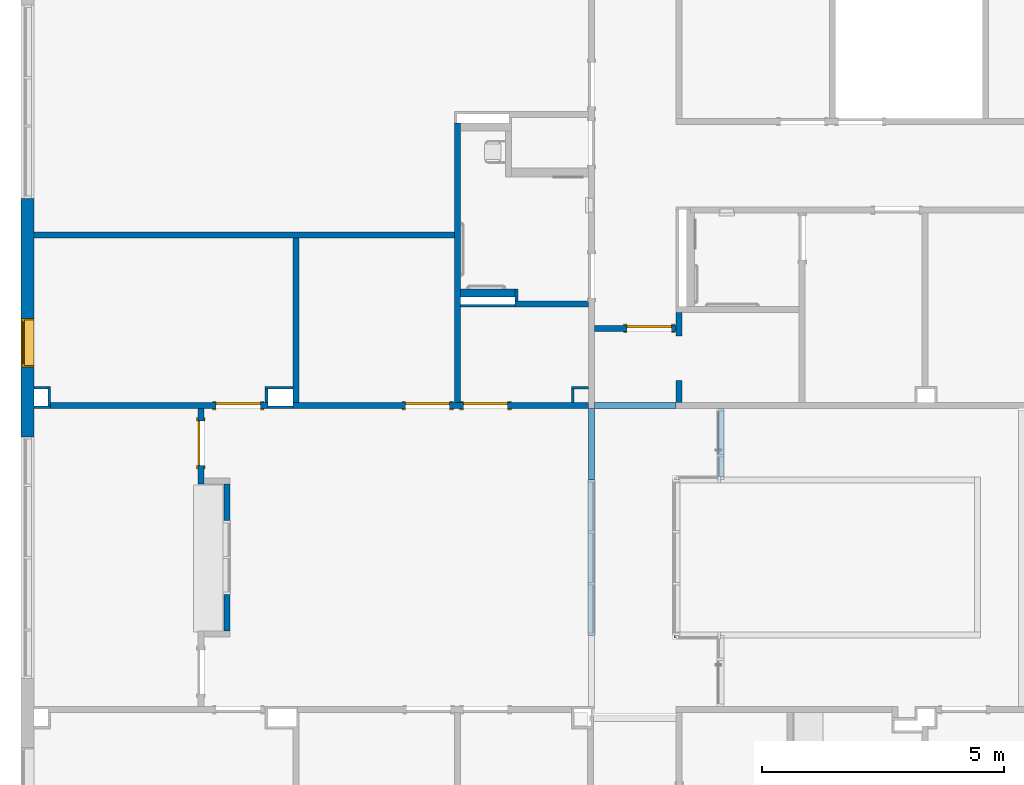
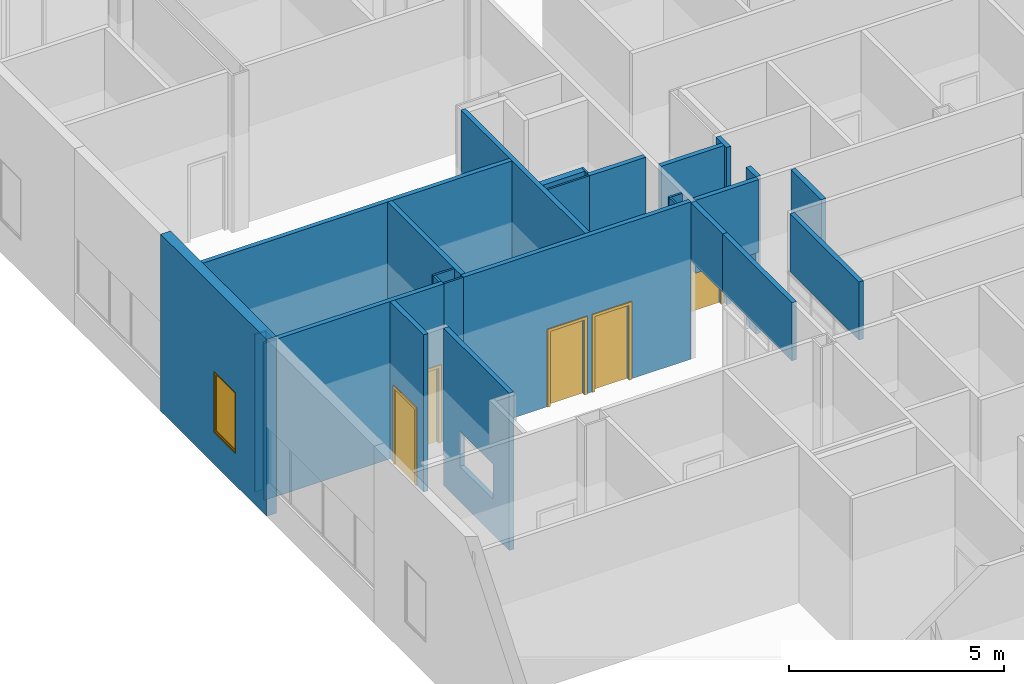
# One storey, part 27 of 87: 28 walls, 5 doors, 1 window, 7 openings.
"""IFC2X3 building model written with IfcOpenShell, lengths in metres."""

from ifc_helpers import new_model, entity, si_unit, converted_unit, frame, frame_2d, origin, origin_2d_with_axis, place, context, project, spatial, polyline, rectangle, outline, extrude, source, transform, mapped, material, layer, layer_set, layer_usage, type_object, type_shapes, element, fill, save


model = new_model("IFC2X3")

# Units and contexts
model_context = context("Model", 3, precision=1e-09, world=origin())
plan_context = context("Plan", 3, precision=1e-09, world=origin())
ifc_project = project(units=[si_unit("LENGTHUNIT", "METRE"), si_unit("AREAUNIT", "SQUARE_METRE"), si_unit("VOLUMEUNIT", "CUBIC_METRE"), converted_unit("PLANEANGLEUNIT", "DEGREE", entity("IfcRatioMeasure", 0.01745329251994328), si_unit("PLANEANGLEUNIT", "RADIAN"), dimensions=[0, 0, 0, 0, 0, 0, 0]), si_unit("TIMEUNIT", "SECOND")], contexts=[model_context, plan_context])

# Site, building, storey
site_placement = place(None, origin())
site = spatial("IfcSite", under=ifc_project, at=site_placement, Name="Default", CompositionType="ELEMENT")
building_placement = place(site_placement, origin())
building = spatial("IfcBuilding", under=site, at=building_placement, CompositionType="ELEMENT")
storey_placement = place(building_placement, origin())
storey = spatial("IfcBuildingStorey", under=building, at=storey_placement, Name="First Floor", CompositionType="ELEMENT", Elevation=-3.531500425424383e-13)

# Wall, openings, doors
ifc_material_1 = material(Name="Plasterboard")
ifc_layer_1 = layer(ifc_material_1, 0.016)
ifc_material_2 = material(Name="Metal - Stud Layer")
ifc_layer_2 = layer(ifc_material_2, 0.092)
ifc_layer_3 = layer(ifc_material_1, 0.016)
ifc_layer_set_1 = layer_set([ifc_layer_1, ifc_layer_2, ifc_layer_3], Name="Basic Wall:Interior - Partition (92mm Stud)")
ifc_layer_usage_1 = layer_usage(ifc_layer_set_1, "AXIS2", "NEGATIVE", 0.062)
wall_1_placement = place(storey_placement, frame((-40.53700000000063, 34.84199999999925, 0.0), z_axis=(0.0, 0.0, 1.0), x_axis=(-1.0, 0.0, 0.0)))
wall_1 = element("IfcWallStandardCase", 1, at=wall_1_placement, inside=storey, material=ifc_layer_usage_1, Name="Basic Wall:Interior - Partition (92mm Stud)", ObjectType="Basic Wall:Interior - Partition (92mm Stud)", context=model_context, shape_type="SweptSolid", body=[
    extrude(rectangle(XDim=6.116999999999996, YDim=0.1239999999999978, at=frame_2d((3.058499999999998, 0.0), x_axis=(-1.0, 0.0))), origin(), (0.0, 0.0, 1.0), 4.468000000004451),
])
opening_1_placement = place(wall_1_placement, frame((2.589, 0.06199999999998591, 0.0)))
opening_1 = element("IfcOpeningElement", 2, at=opening_1_placement, cuts=wall_1, Name="M_Single-Flush:0915 x 2134mm:0915 x 2134mm:1", ObjectType="Opening", context=model_context, shape_type="SweptSolid", body=[
    extrude(rectangle(XDim=0.9149999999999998, YDim=2.134, at=frame_2d((1.067, 0.4574999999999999), x_axis=(0.0, -1.0))), frame((0.0, 0.0, 0.0), z_axis=(0.0, -1.0, 0.0), x_axis=(0.0, 0.0, 1.0)), (0.0, 0.0, 1.0), 0.124),
])
opening_2_placement = place(wall_1_placement, frame((3.787999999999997, 0.06199999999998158, 0.0)))
opening_2 = element("IfcOpeningElement", 3, at=opening_2_placement, cuts=wall_1, Name="M_Single-Flush:0915 x 2134mm:0915 x 2134mm:1", ObjectType="Opening", context=model_context, shape_type="SweptSolid", body=[
    extrude(rectangle(XDim=0.9149999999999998, YDim=2.134, at=frame_2d((1.067, 0.4575), x_axis=(0.0, 1.0))), frame((0.0, 0.0, 0.0), z_axis=(0.0, -1.0, 0.0), x_axis=(0.0, 0.0, 1.0)), (0.0, 0.0, 1.0), 0.124),
])
door_style_1 = type_object("IfcDoorStyle", Name="0915 x 2134mm", ConstructionType="NOTDEFINED", OperationType="SINGLE_SWING_RIGHT", ParameterTakesPrecedence=False, Sizeable=False)
shared_shape_1 = source(origin(), model_context, "Body", "SweptSolid", [
    extrude(outline(polyline([(-0.5335, -1.123999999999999), (0.5334999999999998, -1.123999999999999), (0.5334999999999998, 1.086), (0.4574999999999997, 1.086), (0.4574999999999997, -1.048000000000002), (-0.4574999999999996, -1.048000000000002), (-0.4574999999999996, 1.086), (-0.5335, 1.086), (-0.5335, -1.123999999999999)])), frame((0.4575000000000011, 0.1239999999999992, 1.086), z_axis=(0.0, 1.0, 0.0), x_axis=(1.0, 0.0, 0.0)), (0.0, 0.0, 1.0), 0.02499999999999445),
    extrude(outline(polyline([(-1.123999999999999, -0.5334999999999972), (1.085999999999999, -0.5334999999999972), (1.085999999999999, -0.4575000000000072), (-1.048, -0.4575000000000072), (-1.048, 0.4575000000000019), (1.085999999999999, 0.4575000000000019), (1.085999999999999, 0.5335000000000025), (-1.123999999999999, 0.5335000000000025), (-1.123999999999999, -0.5334999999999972)])), frame((0.4575000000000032, -0.02500000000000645, 1.085999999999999), z_axis=(0.0, 1.0, 0.0), x_axis=(0.0, 0.0, -1.0)), (0.0, 0.0, 1.0), 0.02500000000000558),
    extrude(rectangle(XDim=0.051, YDim=0.9149999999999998, at=origin_2d_with_axis()), frame((0.4575000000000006, 0.09849999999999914, 0.0), z_axis=(0.0, 0.0, 1.0), x_axis=(0.0, 1.0, 0.0)), (0.0, 0.0, 1.0), 2.133999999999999),
])
type_shapes(door_style_1, [shared_shape_1])
door_1_placement = place(opening_2_placement, frame((0.0, 0.0, 0.0), z_axis=(0.0, 0.0, 1.0), x_axis=(-1.0, 0.0, 0.0)))
door_1 = element("IfcDoor", 4, at=door_1_placement, inside=storey, type_object=door_style_1, Name="M_Single-Flush:0915 x 2134mm:0915 x 2134mm", ObjectType="0915 x 2134mm", OverallHeight=2.134, OverallWidth=0.9149999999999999, context=model_context, shape_type="MappedRepresentation", body=[
    mapped(shared_shape_1, transform((0.0, 0.0, 0.0), scale=1.0)),
])
fill(opening_2, door_1)
door_style_2 = type_object("IfcDoorStyle", Name="0915 x 2134mm", ConstructionType="NOTDEFINED", OperationType="SINGLE_SWING_LEFT", ParameterTakesPrecedence=False, Sizeable=False)
shared_shape_2 = source(origin(), model_context, "Body", "SweptSolid", [
    extrude(outline(polyline([(-0.5335, -1.123999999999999), (0.5334999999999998, -1.123999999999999), (0.5334999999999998, 1.086), (0.4574999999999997, 1.086), (0.4574999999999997, -1.048000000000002), (-0.4574999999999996, -1.048000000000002), (-0.4574999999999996, 1.086), (-0.5335, 1.086), (-0.5335, -1.123999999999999)])), frame((0.4575000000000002, 0.1489999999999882, 1.086), z_axis=(0.0, -1.0, 0.0), x_axis=(-1.0, 0.0, 0.0)), (0.0, 0.0, 1.0), 0.02499999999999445),
    extrude(outline(polyline([(-1.123999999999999, -0.5334999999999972), (1.085999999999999, -0.5334999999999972), (1.085999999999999, -0.4575000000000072), (-1.048, -0.4575000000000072), (-1.048, 0.4575000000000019), (1.085999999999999, 0.4575000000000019), (1.085999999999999, 0.5335000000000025), (-1.123999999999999, 0.5335000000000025), (-1.123999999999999, -0.5334999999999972)])), frame((0.4574999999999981, 0.0, 1.085999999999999), z_axis=(0.0, -1.0, 0.0), x_axis=(0.0, 0.0, -1.0)), (0.0, 0.0, 1.0), 0.02500000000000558),
    extrude(rectangle(XDim=0.9149999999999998, YDim=0.051, at=origin_2d_with_axis()), frame((0.4575000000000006, 0.09849999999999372, 0.0)), (0.0, 0.0, 1.0), 2.133999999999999),
])
type_shapes(door_style_2, [shared_shape_2])
door_2_placement = place(opening_1_placement, frame((0.0, 0.0, 0.0), z_axis=(0.0, 0.0, 1.0), x_axis=(-1.0, 0.0, 0.0)))
door_2 = element("IfcDoor", 5, at=door_2_placement, inside=storey, type_object=door_style_2, Name="M_Single-Flush:0915 x 2134mm:0915 x 2134mm", ObjectType="0915 x 2134mm", OverallHeight=2.134, OverallWidth=0.9149999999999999, context=model_context, shape_type="MappedRepresentation", body=[
    mapped(shared_shape_2, transform((0.0, 0.0, 0.0), scale=1.0)),
])
fill(opening_1, door_2)

# Walls
ifc_layer_usage_2 = layer_usage(ifc_layer_set_1, "AXIS2", "NEGATIVE", 0.062)
wall_2_placement = place(storey_placement, frame((-38.65800000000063, 34.90354814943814, 0.0), z_axis=(0.0, 0.0, 1.0), x_axis=(0.0, 1.0, 0.0)))
element("IfcWallStandardCase", 6, at=wall_2_placement, inside=storey, material=ifc_layer_usage_2, Name="Basic Wall:Interior - Partition (92mm Stud)", ObjectType="Basic Wall:Interior - Partition (92mm Stud)", context=model_context, shape_type="SweptSolid", body=[
    extrude(rectangle(XDim=0.4589518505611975, YDim=0.1239999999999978, at=frame_2d((0.2294759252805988, 0.0), x_axis=(-1.0, 0.0))), origin(), (0.0, 0.0, 1.0), 4.46800000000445),
])
ifc_layer_usage_3 = layer_usage(ifc_layer_set_1, "AXIS2", "NEGATIVE", 0.062)
wall_3_placement = place(storey_placement, frame((-38.65800000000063, 36.27749999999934, 0.0), z_axis=(0.0, 0.0, 1.0), x_axis=(0.0, 1.0, 0.0)))
element("IfcWallStandardCase", 7, at=wall_3_placement, inside=storey, material=ifc_layer_usage_3, Name="Basic Wall:Interior - Partition (92mm Stud)", ObjectType="Basic Wall:Interior - Partition (92mm Stud)", context=model_context, shape_type="SweptSolid", body=[
    extrude(rectangle(XDim=0.492500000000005, YDim=0.1239999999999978, at=frame_2d((0.2462500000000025, 0.0), x_axis=(-1.0, 0.0))), origin(), (0.0, 0.0, 1.0), 4.468000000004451),
])

# Wall, opening, door
ifc_layer_usage_4 = layer_usage(ifc_layer_set_1, "AXIS2", "NEGATIVE", 0.062)
wall_4_placement = place(storey_placement, frame((-38.72000000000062, 36.43949999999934, 0.0), z_axis=(0.0, 0.0, 1.0), x_axis=(-1.0, 0.0, 0.0)))
wall_4 = element("IfcWallStandardCase", 8, at=wall_4_placement, inside=storey, material=ifc_layer_usage_4, Name="Basic Wall:Interior - Partition (92mm Stud)", ObjectType="Basic Wall:Interior - Partition (92mm Stud)", context=model_context, shape_type="SweptSolid", body=[
    extrude(rectangle(XDim=1.693000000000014, YDim=0.1239999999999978, at=frame_2d((0.8465000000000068, 0.0), x_axis=(-1.0, 0.0))), origin(), (0.0, 0.0, 1.0), 4.46800000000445),
])
opening_3_placement = place(wall_4_placement, frame((1.015000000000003, 0.06199999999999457, 0.0)))
opening_3 = element("IfcOpeningElement", 9, at=opening_3_placement, cuts=wall_4, Name="M_Single-Flush:0915 x 2134mm:0915 x 2134mm:1", ObjectType="Opening", context=model_context, shape_type="SweptSolid", body=[
    extrude(rectangle(XDim=0.9149999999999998, YDim=2.134, at=frame_2d((1.067, 0.4575), x_axis=(0.0, 1.0))), frame((0.0, 0.0, 0.0), z_axis=(0.0, -1.0, 0.0), x_axis=(0.0, 0.0, 1.0)), (0.0, 0.0, 1.0), 0.124),
])
door_3_placement = place(opening_3_placement, frame((0.0, 0.0, 0.0), z_axis=(0.0, 0.0, 1.0), x_axis=(-1.0, 0.0, 0.0)))
door_3 = element("IfcDoor", 10, at=door_3_placement, inside=storey, type_object=door_style_1, Name="M_Single-Flush:0915 x 2134mm:0915 x 2134mm", ObjectType="0915 x 2134mm", OverallHeight=2.134, OverallWidth=0.9149999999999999, context=model_context, shape_type="MappedRepresentation", body=[
    mapped(shared_shape_1, transform((0.0, 0.0, 0.0), scale=1.0)),
])
fill(opening_3, door_3)

# Walls
ifc_layer_usage_5 = layer_usage(ifc_layer_set_1, "AXIS2", "NEGATIVE", 0.062)
wall_5_placement = place(storey_placement, frame((-40.53700000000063, 36.94199999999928, 0.0), z_axis=(0.0, 0.0, 1.0), x_axis=(-1.0, 0.0, 0.0)))
element("IfcWallStandardCase", 11, at=wall_5_placement, inside=storey, material=ifc_layer_usage_5, Name="Basic Wall:Interior - Partition (92mm Stud)", ObjectType="Basic Wall:Interior - Partition (92mm Stud)", context=model_context, shape_type="SweptSolid", body=[
    extrude(rectangle(XDim=1.516999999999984, YDim=0.1239999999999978, at=frame_2d((0.7584999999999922, 0.0), x_axis=(-1.0, 0.0))), origin(), (0.0, 0.0, 1.0), 4.46800000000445),
])
ifc_layer_4 = layer(ifc_material_2, 0.038)
ifc_layer_5 = layer(ifc_material_1, 0.016)
ifc_layer_set_2 = layer_set([ifc_layer_4, ifc_layer_5], Name="Basic Wall:Interior - Furring (38 mm Stud)")
ifc_layer_usage_6 = layer_usage(ifc_layer_set_2, "AXIS2", "POSITIVE", -0.027)
wall_6_placement = place(storey_placement, frame((-42.02700000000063, 37.25999999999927, 0.0), z_axis=(0.0, 0.0, 1.0), x_axis=(0.0, -1.0, 0.0)))
element("IfcWallStandardCase", 12, at=wall_6_placement, inside=storey, material=ifc_layer_usage_6, Name="Basic Wall:Interior - Furring (38 mm Stud)", ObjectType="Basic Wall:Interior - Furring (38 mm Stud)", context=model_context, shape_type="SweptSolid", body=[
    extrude(rectangle(XDim=0.2559999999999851, YDim=0.05400000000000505, at=frame_2d((0.1279999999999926, 0.0), x_axis=(-1.0, 0.0))), origin(), (0.0, 0.0, 1.0), 4.468000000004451),
])
ifc_layer_6 = layer(ifc_material_2, 0.152)
ifc_layer_7 = layer(ifc_material_1, 0.016)
ifc_layer_set_3 = layer_set([ifc_layer_6, ifc_layer_7], Name="Basic Wall:Interior - Furring (152 mm Stud)")
ifc_layer_usage_7 = layer_usage(ifc_layer_set_3, "AXIS2", "POSITIVE", -0.08399999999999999)
wall_7_placement = place(storey_placement, frame((-43.18600000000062, 37.17599999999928, 0.0)))
element("IfcWallStandardCase", 13, at=wall_7_placement, inside=storey, material=ifc_layer_usage_7, Name="Basic Wall:Interior - Furring (152 mm Stud)", ObjectType="Basic Wall:Interior - Furring (152 mm Stud)", context=model_context, shape_type="SweptSolid", body=[
    extrude(rectangle(XDim=1.132000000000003, YDim=0.1679999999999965, at=frame_2d((0.5660000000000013, 0.0), x_axis=(-1.0, 0.0))), origin(), (0.0, 0.0, 1.0), 4.46800000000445),
])
ifc_layer_usage_8 = layer_usage(ifc_layer_set_1, "AXIS2", "NEGATIVE", 0.062)
wall_8_placement = place(storey_placement, frame((-43.24800000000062, 34.90399999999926, 0.0), z_axis=(0.0, 0.0, 1.0), x_axis=(0.0, 1.0, 0.0)))
element("IfcWallStandardCase", 14, at=wall_8_placement, inside=storey, material=ifc_layer_usage_8, Name="Basic Wall:Interior - Partition (92mm Stud)", ObjectType="Basic Wall:Interior - Partition (92mm Stud)", context=model_context, shape_type="SweptSolid", body=[
    extrude(rectangle(XDim=5.787399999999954, YDim=0.1240000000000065, at=frame_2d((2.893699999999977, 0.0), x_axis=(-1.0, 0.0))), origin(), (0.0, 0.0, 1.0), 4.468000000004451),
])
ifc_layer_usage_9 = layer_usage(ifc_layer_set_1, "AXIS2", "NEGATIVE", 0.062)
wall_9_placement = place(storey_placement, frame((-52.01300000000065, 38.36799999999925, 0.0)))
element("IfcWallStandardCase", 15, at=wall_9_placement, inside=storey, material=ifc_layer_usage_9, Name="Basic Wall:Interior - Partition (92mm Stud)", ObjectType="Basic Wall:Interior - Partition (92mm Stud)", context=model_context, shape_type="SweptSolid", body=[
    extrude(rectangle(XDim=8.70300000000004, YDim=0.1239999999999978, at=frame_2d((4.35150000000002, 0.0), x_axis=(-1.0, 0.0))), origin(), (0.0, 0.0, 1.0), 4.468000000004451),
])
ifc_layer_usage_10 = layer_usage(ifc_layer_set_1, "AXIS2", "NEGATIVE", 0.062)
wall_10_placement = place(storey_placement, frame((-46.59200000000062, 38.30599999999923, 0.0), z_axis=(0.0, 0.0, 1.0), x_axis=(0.0, -1.0, 0.0)))
element("IfcWallStandardCase", 16, at=wall_10_placement, inside=storey, material=ifc_layer_usage_10, Name="Basic Wall:Interior - Partition (92mm Stud)", ObjectType="Basic Wall:Interior - Partition (92mm Stud)", context=model_context, shape_type="SweptSolid", body=[
    extrude(rectangle(XDim=3.401999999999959, YDim=0.1240000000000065, at=frame_2d((1.700999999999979, 0.0), x_axis=(-1.0, 0.0))), origin(), (0.0, 0.0, 1.0), 4.46800000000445),
])

# Wall, opening, door
ifc_layer_usage_11 = layer_usage(ifc_layer_set_1, "AXIS2", "NEGATIVE", 0.062)
wall_11_placement = place(storey_placement, frame((-48.56300000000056, 33.21999999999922, 0.0), z_axis=(0.0, 0.0, 1.0), x_axis=(0.0, 1.0, 0.0)))
wall_11 = element("IfcWallStandardCase", 17, at=wall_11_placement, inside=storey, material=ifc_layer_usage_11, Name="Basic Wall:Interior - Partition (92mm Stud)", ObjectType="Basic Wall:Interior - Partition (92mm Stud)", context=model_context, shape_type="SweptSolid", body=[
    extrude(rectangle(XDim=1.560000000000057, YDim=0.1240000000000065, at=frame_2d((0.7800000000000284, 0.0), x_axis=(-1.0, 0.0))), origin(), (0.0, 0.0, 1.0), 4.46800000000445),
])
opening_4_placement = place(wall_11_placement, frame((0.3845000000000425, -0.06200000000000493, 0.0)))
opening_4 = element("IfcOpeningElement", 18, at=opening_4_placement, cuts=wall_11, Name="M_Single-Flush:0915 x 2134mm:0915 x 2134mm:1", ObjectType="Opening", context=model_context, shape_type="SweptSolid", body=[
    extrude(rectangle(XDim=0.9149999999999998, YDim=2.134, at=frame_2d((1.067, 0.4575), x_axis=(0.0, 1.0))), frame((0.0, 0.0, 0.0), z_axis=(0.0, 1.0, 0.0), x_axis=(0.0, 0.0, 1.0)), (0.0, 0.0, 1.0), 0.124),
])
door_4_placement = place(opening_4_placement, origin())
door_4 = element("IfcDoor", 19, at=door_4_placement, inside=storey, type_object=door_style_1, Name="M_Single-Flush:0915 x 2134mm:0915 x 2134mm", ObjectType="0915 x 2134mm", OverallHeight=2.134, OverallWidth=0.9149999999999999, context=model_context, shape_type="MappedRepresentation", body=[
    mapped(shared_shape_1, transform((0.0, 0.0, 0.0), scale=1.0)),
])
fill(opening_4, door_4)

# Wall, opening
ifc_layer_usage_12 = layer_usage(ifc_layer_set_1, "AXIS2", "NEGATIVE", 0.062)
wall_12_placement = place(storey_placement, frame((-48.02299986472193, 30.16999999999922, 0.0), z_axis=(0.0, 0.0, 1.0), x_axis=(0.0, 1.0, 0.0)))
wall_12 = element("IfcWallStandardCase", 20, at=wall_12_placement, inside=storey, material=ifc_layer_usage_12, Name="Basic Wall:Interior - Partition (92mm Stud)", ObjectType="Basic Wall:Interior - Partition (92mm Stud)", context=model_context, shape_type="SweptSolid", body=[
    extrude(rectangle(XDim=3.05, YDim=0.1240000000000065, at=frame_2d((1.525, 0.0), x_axis=(-1.0, 0.0))), origin(), (0.0, 0.0, 1.0), 4.46800000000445),
])
opening_5_placement = place(wall_12_placement, origin())
element("IfcOpeningElement", 21, at=opening_5_placement, cuts=wall_12, ObjectType="Opening", context=model_context, shape_type="SweptSolid", body=[
    extrude(rectangle(XDim=0.9999999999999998, YDim=1.534000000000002, at=frame_2d((0.0, 0.0), x_axis=(0.0, 1.0))), frame((1.527000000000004, -0.2143999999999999, 1.5), z_axis=(0.0, 1.0, 0.0), x_axis=(-1.0, 0.0, 0.0)), (0.0, 0.0, 1.0), 0.4287999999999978),
])

# Wall, opening, window
ifc_material_3 = material(Name="Insulation - Insulated Panel")
ifc_layer_8 = layer(ifc_material_3, 0.042)
ifc_material_4 = material(Name="Metal - Firring")
ifc_layer_9 = layer(ifc_material_4, 0.038)
ifc_material_5 = material(Name="Wood - Sheathing - plywood")
ifc_layer_10 = layer(ifc_material_5, 0.019)
ifc_layer_11 = layer(ifc_material_2, 0.152)
ifc_layer_12 = layer(ifc_material_1, 0.016)
ifc_layer_set_4 = layer_set([ifc_layer_8, ifc_layer_9, ifc_layer_10, ifc_layer_11, ifc_layer_12], Name="Basic Wall:Exterior - Insul Panel on Mtl. Stud")
ifc_layer_usage_13 = layer_usage(ifc_layer_set_4, "AXIS2", "NEGATIVE", 0.1335)
wall_13_placement = place(storey_placement, frame((-52.14650000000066, 34.19495592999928, 0.0), z_axis=(0.0, 0.0, 1.0), x_axis=(0.0, 1.0, 0.0)))
wall_13 = element("IfcWallStandardCase", 22, at=wall_13_placement, inside=storey, material=ifc_layer_usage_13, Name="Basic Wall:Exterior - Insul Panel on Mtl. Stud", ObjectType="Basic Wall:Exterior - Insul Panel on Mtl. Stud", context=model_context, shape_type="SweptSolid", body=[
    extrude(rectangle(XDim=4.934996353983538, YDim=0.2670000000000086, at=frame_2d((2.467498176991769, 0.0), x_axis=(-1.0, 0.0))), origin(), (0.0, 0.0, 1.0), 5.02700000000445),
])
opening_6_placement = place(wall_13_placement, frame((1.445044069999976, -0.1335000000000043, 0.9049999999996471)))
opening_6 = element("IfcOpeningElement", 23, at=opening_6_placement, cuts=wall_13, Name=":1", ObjectType="Opening", context=model_context, shape_type="SweptSolid", body=[
    extrude(rectangle(XDim=1.734999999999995, YDim=0.9999999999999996, at=frame_2d((0.8674999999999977, 0.4999999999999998), x_axis=(1.0, 0.0))), frame((0.0, 0.0, 0.0), z_axis=(0.0, 1.0, 0.0), x_axis=(0.0, 0.0, 1.0)), (0.0, 0.0, 1.0), 0.267),
])
window_style = type_object("IfcWindowStyle", Name="1735 x 1000mm", ConstructionType="NOTDEFINED", OperationType="NOTDEFINED", ParameterTakesPrecedence=False, Sizeable=False)
shared_shape_3 = source(origin(), model_context, "Body", "SweptSolid", [
    extrude(rectangle(XDim=0.012, YDim=0.873999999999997, at=origin_2d_with_axis()), frame((0.5000000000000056, 0.2259999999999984, 0.06299999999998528), z_axis=(0.0, 0.0, 1.0), x_axis=(0.0, -1.0, 0.0)), (0.0, 0.0, 1.0), 1.609000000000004),
    extrude(outline(polyline([(-0.4809999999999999, -0.8485000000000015), (0.4809999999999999, -0.8485000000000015), (0.4809999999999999, 0.8485000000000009), (-0.4809999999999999, 0.8485000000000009), (-0.4809999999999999, -0.8485000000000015)]), holes=[polyline([(-0.4369999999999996, -0.8045000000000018), (-0.4369999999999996, 0.8045000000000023), (0.4369999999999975, 0.8045000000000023), (0.4369999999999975, -0.8045000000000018), (-0.4369999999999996, -0.8045000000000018)])]), frame((0.5000000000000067, 0.203999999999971, 0.8674999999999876), z_axis=(0.0, 1.0, 0.0), x_axis=(1.0, 0.0, 0.0)), (0.0, 0.0, 1.0), 0.04400000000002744),
    extrude(outline(polyline([(-0.4999999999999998, -0.8674999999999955), (0.4999999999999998, -0.8674999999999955), (0.4999999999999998, 0.8674999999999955), (-0.4999999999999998, 0.8674999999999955), (-0.4999999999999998, -0.8674999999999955)]), holes=[polyline([(-0.4810000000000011, -0.8484999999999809), (-0.4810000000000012, 0.8485000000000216), (0.4809999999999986, 0.8485000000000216), (0.4809999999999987, -0.8484999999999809), (-0.4810000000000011, -0.8484999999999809)])]), frame((0.500000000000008, 0.203999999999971, 0.8675000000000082), z_axis=(0.0, 1.0, 0.0), x_axis=(1.0, 0.0, 0.0)), (0.0, 0.0, 1.0), 0.06300000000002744),
    extrude(outline(polyline([(-0.5000000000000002, -0.867499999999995), (0.5000000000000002, -0.867499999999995), (0.5000000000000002, 0.867499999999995), (-0.5000000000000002, 0.867499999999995), (-0.5000000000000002, -0.867499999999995)]), holes=[polyline([(-0.4679999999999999, -0.8354999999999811), (-0.4679999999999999, 0.8355000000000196), (0.4680000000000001, 0.8355000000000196), (0.4680000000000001, -0.8354999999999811), (-0.4679999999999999, -0.8354999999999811)])]), frame((0.5000000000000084, 0.0, 0.8675000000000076), z_axis=(0.0, 1.0, 0.0), x_axis=(1.0, 0.0, 0.0)), (0.0, 0.0, 1.0), 0.2039999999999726),
])
type_shapes(window_style, [shared_shape_3])
window_placement = place(opening_6_placement, origin())
window = element("IfcWindow", 24, at=window_placement, inside=storey, type_object=window_style, Name="M_Fixed:1735 x 1000mm:1735 x 1000mm", ObjectType="1735 x 1000mm", OverallHeight=1.734999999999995, OverallWidth=0.9999999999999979, context=model_context, shape_type="MappedRepresentation", body=[
    mapped(shared_shape_3, transform((0.0, 0.0, 0.0), scale=1.0)),
])
fill(opening_6, window)

# Walls
ifc_layer_usage_14 = layer_usage(ifc_layer_set_1, "AXIS2", "NEGATIVE", 0.062)
wall_14_placement = place(storey_placement, frame((-38.72000000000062, 34.84154814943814, 2.4), z_axis=(0.0, 0.0, 1.0), x_axis=(-1.0, 0.0, 0.0)))
element("IfcWallStandardCase", 25, at=wall_14_placement, inside=storey, material=ifc_layer_usage_14, Name="Basic Wall:Interior - Partition (92mm Stud)", ObjectType="Basic Wall:Interior - Partition (92mm Stud)", context=model_context, shape_type="SweptSolid", body=[
    extrude(rectangle(XDim=1.693000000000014, YDim=0.1239999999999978, at=frame_2d((0.8465000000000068, 0.0), x_axis=(-1.0, 0.0))), origin(), (0.0, 0.0, 1.0), 2.06800000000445),
])
ifc_layer_usage_15 = layer_usage(ifc_layer_set_1, "AXIS2", "NEGATIVE", 0.062)
wall_15_placement = place(storey_placement, frame((-40.47500000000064, 34.77999999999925, 2.8), z_axis=(0.0, 0.0, 1.0), x_axis=(0.0, -1.0, 0.0)))
element("IfcWallStandardCase", 26, at=wall_15_placement, inside=storey, material=ifc_layer_usage_15, Name="Basic Wall:Interior - Partition (92mm Stud)", ObjectType="Basic Wall:Interior - Partition (92mm Stud)", context=model_context, shape_type="SweptSolid", body=[
    extrude(rectangle(XDim=1.46999999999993, YDim=0.1240000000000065, at=frame_2d((0.734999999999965, 0.0), x_axis=(-1.0, 0.0))), origin(), (0.0, 0.0, 1.0), 1.650000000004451),
])
ifc_layer_usage_16 = layer_usage(ifc_layer_set_1, "AXIS2", "NEGATIVE", 0.062)
wall_16_placement = place(storey_placement, frame((-37.79200000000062, 34.77954814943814, 2.8), z_axis=(0.0, 0.0, 1.0), x_axis=(0.0, -1.0, 0.0)))
element("IfcWallStandardCase", 27, at=wall_16_placement, inside=storey, material=ifc_layer_usage_16, Name="Basic Wall:Interior - Partition (92mm Stud)", ObjectType="Basic Wall:Interior - Partition (92mm Stud)", context=model_context, shape_type="SweptSolid", body=[
    extrude(rectangle(XDim=1.420548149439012, YDim=0.1239999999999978, at=frame_2d((0.710274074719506, 0.0), x_axis=(-1.0, 0.0))), origin(), (0.0, 0.0, 1.0), 1.650000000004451),
])
ifc_layer_usage_17 = layer_usage(ifc_layer_set_1, "AXIS2", "NEGATIVE", 0.062)
wall_17_placement = place(storey_placement, frame((-38.70700000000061, 33.23499999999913, 2.8), z_axis=(0.0, 0.0, 1.0), x_axis=(0.0, -1.0, 0.0)))
element("IfcWallStandardCase", 28, at=wall_17_placement, inside=storey, material=ifc_layer_usage_17, Name="Basic Wall:Interior - Partition (92mm Stud)", ObjectType="Basic Wall:Interior - Partition (92mm Stud)", context=model_context, shape_type="SweptSolid", body=[
    extrude(rectangle(XDim=3.203999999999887, YDim=0.1239999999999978, at=frame_2d((1.601999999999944, 0.0), x_axis=(-1.0, 0.0))), origin(), (0.0, 0.0, 1.0), 1.650000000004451),
])
ifc_layer_usage_18 = layer_usage(ifc_layer_set_1, "AXIS2", "NEGATIVE", 0.062)
wall_18_placement = place(storey_placement, frame((-40.47500000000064, 33.30999999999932, 2.8), z_axis=(0.0, 0.0, 1.0), x_axis=(0.0, -1.0, 0.0)))
element("IfcWallStandardCase", 29, at=wall_18_placement, inside=storey, material=ifc_layer_usage_18, Name="Basic Wall:Interior - Partition (92mm Stud)", ObjectType="Basic Wall:Interior - Partition (92mm Stud)", context=model_context, shape_type="SweptSolid", body=[
    extrude(rectangle(XDim=3.23000000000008, YDim=0.1240000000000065, at=frame_2d((1.61500000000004, 0.0), x_axis=(-1.0, 0.0))), origin(), (0.0, 0.0, 1.0), 1.650000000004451),
])

# Wall, opening, door
ifc_layer_usage_19 = layer_usage(ifc_layer_set_1, "AXIS2", "NEGATIVE", 0.062)
wall_19_placement = place(storey_placement, frame((-47.17600000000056, 34.84199999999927, 0.0), z_axis=(0.0, 0.0, 1.0), x_axis=(-1.0, 0.0, 0.0)))
wall_19 = element("IfcWallStandardCase", 30, at=wall_19_placement, inside=storey, material=ifc_layer_usage_19, Name="Basic Wall:Interior - Partition (92mm Stud)", ObjectType="Basic Wall:Interior - Partition (92mm Stud)", context=model_context, shape_type="SweptSolid", body=[
    extrude(rectangle(XDim=4.49400000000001, YDim=0.1239999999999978, at=frame_2d((2.247000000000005, 0.0), x_axis=(-1.0, 0.0))), origin(), (0.0, 0.0, 1.0), 4.468000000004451),
])
opening_7_placement = place(wall_19_placement, frame((1.069000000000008, 0.06199999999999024, 0.0)))
opening_7 = element("IfcOpeningElement", 31, at=opening_7_placement, cuts=wall_19, Name=":1", ObjectType="Opening", context=model_context, shape_type="SweptSolid", body=[
    extrude(rectangle(XDim=0.9149999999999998, YDim=2.134, at=frame_2d((1.067, 0.4575), x_axis=(0.0, 1.0))), frame((0.0, 0.0, 0.0), z_axis=(0.0, -1.0, 0.0), x_axis=(0.0, 0.0, 1.0)), (0.0, 0.0, 1.0), 0.124),
])
door_5_placement = place(opening_7_placement, frame((0.0, 0.0, 0.0), z_axis=(0.0, 0.0, 1.0), x_axis=(-1.0, 0.0, 0.0)))
door_5 = element("IfcDoor", 32, at=door_5_placement, inside=storey, type_object=door_style_1, Name="M_Single-Flush:0915 x 2134mm:0915 x 2134mm", ObjectType="0915 x 2134mm", OverallHeight=2.134, OverallWidth=0.9149999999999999, context=model_context, shape_type="MappedRepresentation", body=[
    mapped(shared_shape_1, transform((0.0, 0.0, 0.0), scale=1.0)),
])
fill(opening_7, door_5)

# Walls
ifc_layer_usage_20 = layer_usage(ifc_layer_set_2, "AXIS2", "NEGATIVE", 0.027)
wall_20_placement = place(storey_placement, frame((-52.01300000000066, 34.80699999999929, 0.0)))
element("IfcWallStandardCase", 33, at=wall_20_placement, inside=storey, material=ifc_layer_usage_20, Name="Basic Wall:Interior - Furring (38 mm Stud)", ObjectType="Basic Wall:Interior - Furring (38 mm Stud)", context=model_context, shape_type="SweptSolid", body=[
    extrude(rectangle(XDim=0.3430000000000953, YDim=0.05399999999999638, at=frame_2d((0.1715000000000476, 0.0), x_axis=(-1.0, 0.0))), origin(), (0.0, 0.0, 1.0), 4.46800000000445),
])
ifc_layer_usage_21 = layer_usage(ifc_layer_set_2, "AXIS2", "NEGATIVE", 0.027)
wall_21_placement = place(storey_placement, frame((-51.69700000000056, 34.83399999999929, 0.0), z_axis=(0.0, 0.0, 1.0), x_axis=(0.0, 1.0, 0.0)))
element("IfcWallStandardCase", 34, at=wall_21_placement, inside=storey, material=ifc_layer_usage_21, Name="Basic Wall:Interior - Furring (38 mm Stud)", ObjectType="Basic Wall:Interior - Furring (38 mm Stud)", context=model_context, shape_type="SweptSolid", body=[
    extrude(rectangle(XDim=0.4059999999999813, YDim=0.05400000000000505, at=frame_2d((0.2029999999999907, 0.0), x_axis=(-1.0, 0.0))), origin(), (0.0, 0.0, 1.0), 4.468000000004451),
])
ifc_layer_usage_22 = layer_usage(ifc_layer_set_2, "AXIS2", "NEGATIVE", 0.027)
wall_22_placement = place(storey_placement, frame((-51.72400000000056, 35.21299999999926, 0.0), z_axis=(0.0, 0.0, 1.0), x_axis=(-1.0, 0.0, 0.0)))
element("IfcWallStandardCase", 35, at=wall_22_placement, inside=storey, material=ifc_layer_usage_22, Name="Basic Wall:Interior - Furring (38 mm Stud)", ObjectType="Basic Wall:Interior - Furring (38 mm Stud)", context=model_context, shape_type="SweptSolid", body=[
    extrude(rectangle(XDim=0.2890000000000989, YDim=0.05399999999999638, at=frame_2d((0.1445000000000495, 0.0), x_axis=(-1.0, 0.0))), origin(), (0.0, 0.0, 1.0), 4.46800000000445),
])
ifc_layer_usage_23 = layer_usage(ifc_layer_set_2, "AXIS2", "NEGATIVE", 0.027)
wall_23_placement = place(storey_placement, frame((-46.65400000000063, 35.21299999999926, 0.0), z_axis=(0.0, 0.0, 1.0), x_axis=(-1.0, 0.0, 0.0)))
element("IfcWallStandardCase", 36, at=wall_23_placement, inside=storey, material=ifc_layer_usage_23, Name="Basic Wall:Interior - Furring (38 mm Stud)", ObjectType="Basic Wall:Interior - Furring (38 mm Stud)", context=model_context, shape_type="SweptSolid", body=[
    extrude(rectangle(XDim=0.575999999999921, YDim=0.05399999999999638, at=frame_2d((0.2879999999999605, 0.0), x_axis=(-1.0, 0.0))), origin(), (0.0, 0.0, 1.0), 4.468000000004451),
])
ifc_layer_usage_24 = layer_usage(ifc_layer_set_2, "AXIS2", "NEGATIVE", 0.027)
wall_24_placement = place(storey_placement, frame((-47.20300000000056, 35.18599999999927, 0.0), z_axis=(0.0, 0.0, 1.0), x_axis=(0.0, -1.0, 0.0)))
element("IfcWallStandardCase", 37, at=wall_24_placement, inside=storey, material=ifc_layer_usage_24, Name="Basic Wall:Interior - Furring (38 mm Stud)", ObjectType="Basic Wall:Interior - Furring (38 mm Stud)", context=model_context, shape_type="SweptSolid", body=[
    extrude(rectangle(XDim=0.2819999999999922, YDim=0.05400000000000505, at=frame_2d((0.1409999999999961, 0.0), x_axis=(-1.0, 0.0))), origin(), (0.0, 0.0, 1.0), 4.46800000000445),
])
ifc_layer_usage_25 = layer_usage(ifc_layer_set_2, "AXIS2", "NEGATIVE", 0.027)
wall_25_placement = place(storey_placement, frame((-47.17600000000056, 34.80699999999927, 0.0)))
element("IfcWallStandardCase", 38, at=wall_25_placement, inside=storey, material=ifc_layer_usage_25, Name="Basic Wall:Interior - Furring (38 mm Stud)", ObjectType="Basic Wall:Interior - Furring (38 mm Stud)", context=model_context, shape_type="SweptSolid", body=[
    extrude(rectangle(XDim=0.5219999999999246, YDim=0.05399999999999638, at=frame_2d((0.2609999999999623, 0.0), x_axis=(-1.0, 0.0))), origin(), (0.0, 0.0, 1.0), 4.46800000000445),
])
ifc_layer_usage_26 = layer_usage(ifc_layer_set_2, "AXIS2", "NEGATIVE", 0.027)
wall_26_placement = place(storey_placement, frame((-40.53700000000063, 35.21299999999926, 0.0), z_axis=(0.0, 0.0, 1.0), x_axis=(-1.0, 0.0, 0.0)))
element("IfcWallStandardCase", 39, at=wall_26_placement, inside=storey, material=ifc_layer_usage_26, Name="Basic Wall:Interior - Furring (38 mm Stud)", ObjectType="Basic Wall:Interior - Furring (38 mm Stud)", context=model_context, shape_type="SweptSolid", body=[
    extrude(rectangle(XDim=0.3529999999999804, YDim=0.05399999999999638, at=frame_2d((0.1764999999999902, 0.0), x_axis=(-1.0, 0.0))), origin(), (0.0, 0.0, 1.0), 4.46800000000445),
])
ifc_layer_usage_27 = layer_usage(ifc_layer_set_2, "AXIS2", "NEGATIVE", 0.027)
wall_27_placement = place(storey_placement, frame((-40.86300000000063, 35.18599999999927, 0.0), z_axis=(0.0, 0.0, 1.0), x_axis=(0.0, -1.0, 0.0)))
element("IfcWallStandardCase", 40, at=wall_27_placement, inside=storey, material=ifc_layer_usage_27, Name="Basic Wall:Interior - Furring (38 mm Stud)", ObjectType="Basic Wall:Interior - Furring (38 mm Stud)", context=model_context, shape_type="SweptSolid", body=[
    extrude(rectangle(XDim=0.2820000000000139, YDim=0.05400000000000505, at=frame_2d((0.1410000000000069, 0.0), x_axis=(-1.0, 0.0))), origin(), (0.0, 0.0, 1.0), 4.46800000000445),
])
ifc_layer_usage_28 = layer_usage(ifc_layer_set_2, "AXIS2", "POSITIVE", -0.027)
wall_28_placement = place(storey_placement, frame((-42.05400000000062, 36.90699999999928, 0.0), z_axis=(0.0, 0.0, 1.0), x_axis=(-1.0, 0.0, 0.0)))
element("IfcWallStandardCase", 41, at=wall_28_placement, inside=storey, material=ifc_layer_usage_28, Name="Basic Wall:Interior - Furring (38 mm Stud)", ObjectType="Basic Wall:Interior - Furring (38 mm Stud)", context=model_context, shape_type="SweptSolid", body=[
    extrude(rectangle(XDim=1.132000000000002, YDim=0.05399999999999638, at=frame_2d((0.5660000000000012, 0.0), x_axis=(-1.0, 0.0))), origin(), (0.0, 0.0, 1.0), 4.46800000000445),
])

save(model, "model.ifc")
